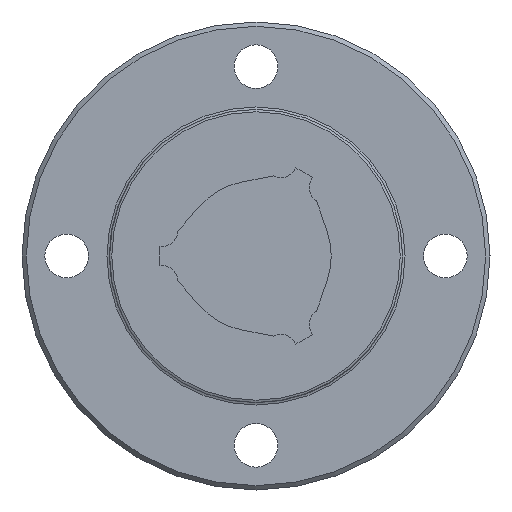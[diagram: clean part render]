
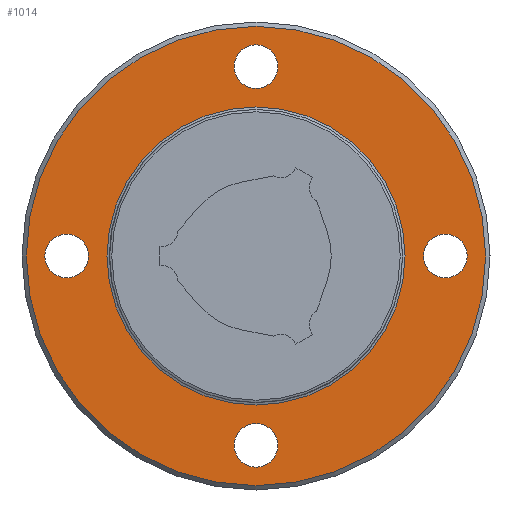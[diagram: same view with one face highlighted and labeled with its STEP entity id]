
A CAD part, left-side view. The second image highlights one B-rep face of the part: STEP entity #1014.
In plain terms, the highlighted planar face has unit normal (-1, 0, 0).
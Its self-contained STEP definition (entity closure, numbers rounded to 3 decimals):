
#49=PLANE('',#1146);
#319=ORIENTED_EDGE('',*,*,#534,.F.);
#320=ORIENTED_EDGE('',*,*,#535,.T.);
#321=ORIENTED_EDGE('',*,*,#536,.T.);
#322=ORIENTED_EDGE('',*,*,#537,.T.);
#323=ORIENTED_EDGE('',*,*,#538,.T.);
#324=ORIENTED_EDGE('',*,*,#533,.T.);
#533=EDGE_CURVE('',#651,#651,#730,.T.);
#534=EDGE_CURVE('',#652,#652,#731,.T.);
#535=EDGE_CURVE('',#653,#653,#732,.T.);
#536=EDGE_CURVE('',#654,#654,#733,.T.);
#537=EDGE_CURVE('',#655,#655,#734,.T.);
#538=EDGE_CURVE('',#656,#656,#735,.T.);
#651=VERTEX_POINT('',#1754);
#652=VERTEX_POINT('',#1757);
#653=VERTEX_POINT('',#1759);
#654=VERTEX_POINT('',#1761);
#655=VERTEX_POINT('',#1763);
#656=VERTEX_POINT('',#1765);
#730=CIRCLE('',#1145,30.7);
#731=CIRCLE('',#1147,47.3);
#732=CIRCLE('',#1148,4.5);
#733=CIRCLE('',#1149,4.5);
#734=CIRCLE('',#1150,4.5);
#735=CIRCLE('',#1151,4.5);
#795=EDGE_LOOP('',(#319));
#796=EDGE_LOOP('',(#320));
#797=EDGE_LOOP('',(#321));
#798=EDGE_LOOP('',(#322));
#799=EDGE_LOOP('',(#323));
#800=EDGE_LOOP('',(#324));
#891=FACE_BOUND('',#795,.T.);
#892=FACE_BOUND('',#796,.T.);
#893=FACE_BOUND('',#797,.T.);
#894=FACE_BOUND('',#798,.T.);
#895=FACE_BOUND('',#799,.T.);
#896=FACE_BOUND('',#800,.T.);
#1014=ADVANCED_FACE('',(#891,#892,#893,#894,#895,#896),#49,.F.);
#1145=AXIS2_PLACEMENT_3D('',#1753,#1388,#1389);
#1146=AXIS2_PLACEMENT_3D('',#1755,#1390,#1391);
#1147=AXIS2_PLACEMENT_3D('',#1756,#1392,#1393);
#1148=AXIS2_PLACEMENT_3D('',#1758,#1394,#1395);
#1149=AXIS2_PLACEMENT_3D('',#1760,#1396,#1397);
#1150=AXIS2_PLACEMENT_3D('',#1762,#1398,#1399);
#1151=AXIS2_PLACEMENT_3D('',#1764,#1400,#1401);
#1388=DIRECTION('',(1.,0.,0.));
#1389=DIRECTION('',(0.,0.,-1.));
#1390=DIRECTION('',(1.,0.,0.));
#1391=DIRECTION('',(0.,0.,-1.));
#1392=DIRECTION('',(1.,0.,0.));
#1393=DIRECTION('',(0.,0.,-1.));
#1394=DIRECTION('',(1.,0.,0.));
#1395=DIRECTION('',(0.,0.,-1.));
#1396=DIRECTION('',(1.,0.,0.));
#1397=DIRECTION('',(0.,0.,-1.));
#1398=DIRECTION('',(1.,0.,0.));
#1399=DIRECTION('',(0.,0.,-1.));
#1400=DIRECTION('',(1.,0.,0.));
#1401=DIRECTION('',(0.,0.,-1.));
#1753=CARTESIAN_POINT('',(41.,0.,0.));
#1754=CARTESIAN_POINT('',(41.,0.,-30.7));
#1755=CARTESIAN_POINT('',(41.,30.7,0.));
#1756=CARTESIAN_POINT('',(41.,0.,0.));
#1757=CARTESIAN_POINT('',(41.,0.,-47.3));
#1758=CARTESIAN_POINT('',(41.,39.,0.));
#1759=CARTESIAN_POINT('',(41.,39.,-4.5));
#1760=CARTESIAN_POINT('',(41.,0.,-39.));
#1761=CARTESIAN_POINT('',(41.,0.,-43.5));
#1762=CARTESIAN_POINT('',(41.,0.,39.));
#1763=CARTESIAN_POINT('',(41.,0.,34.5));
#1764=CARTESIAN_POINT('',(41.,-39.,0.));
#1765=CARTESIAN_POINT('',(41.,-39.,-4.5));
